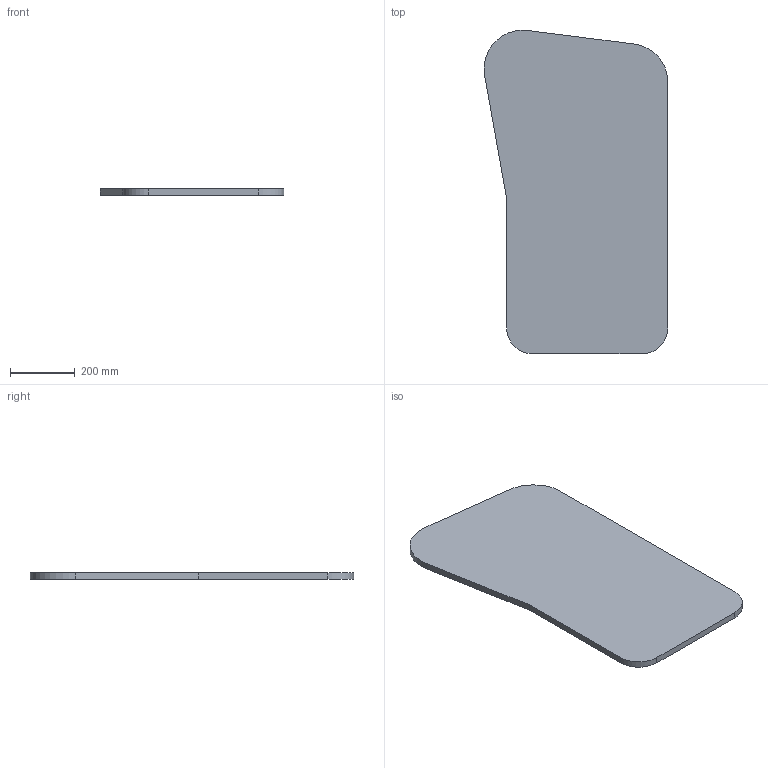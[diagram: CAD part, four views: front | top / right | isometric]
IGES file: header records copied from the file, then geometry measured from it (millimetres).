
Start section: START RECORD GO HERE.
Global section: file name: 3D_ART  7134.igs; native system: DASSAULT SYSTEMES CATIA V5 R19 - www.3ds.com; preprocessor: CATIA Version 5 Release 19 SP 5 ; author: Luca; organization: DESKTOP-V7SON24; date: 20210126.115400; units: millimetre
Bounding box: 570 x 1002.89 x 20 mm (x, y, z)
Surface area: 1064971.5 mm2 (no closed solid volume)
Topology: 0 solids, 0 shells, 11 faces, 54 edges, 54 vertices
Faces by surface type: plane 7, revolution 4
